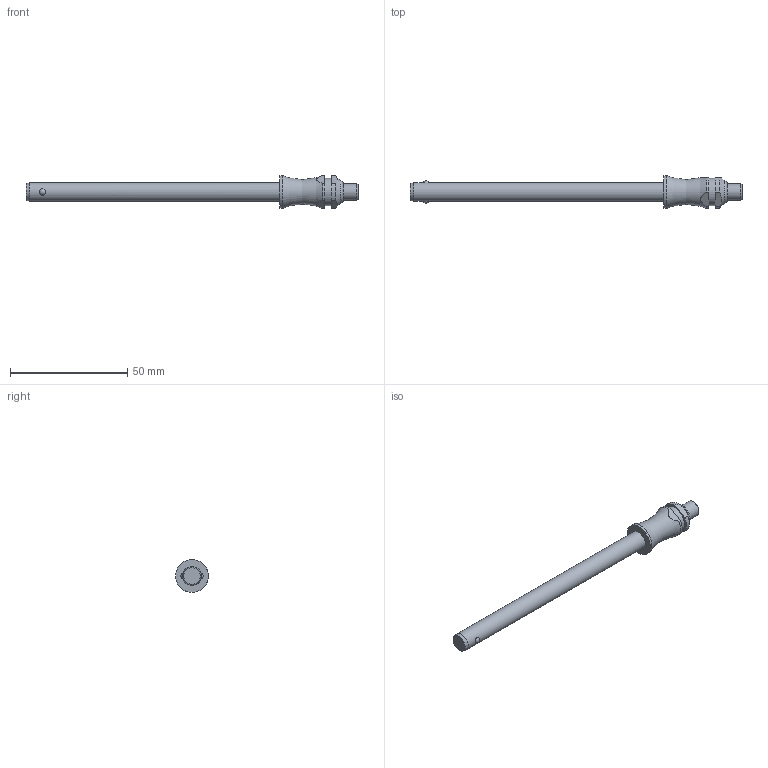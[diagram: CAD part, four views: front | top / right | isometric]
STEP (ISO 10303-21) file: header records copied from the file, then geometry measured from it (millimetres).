
FILE_DESCRIPTION( ( 'STEP AP203' ), '1' );
FILE_NAME( 'C:/Temp/Ganter_Step_05_03_2020/data/3_1/gn113_3/Stainless Steel-Ball lock pin GN 113.3-8-100 (deactivated).stp', '2020-03-12T08:18:29', ( 'License CC BY-ND 4.0' ), ( 'CADENAS' ), ' ', 'PARTsolutions', ' ' );
FILE_SCHEMA( ( 'CONFIG_CONTROL_DESIGN' ) );
Length unit declared in the file: millimetre
Products named in the file (1): _Stainless Steel-Ball lock pin GN 113.3-8-100 (deactivated)
Bounding box: 141.5 x 14 x 14 mm (x, y, z)
Volume: 8658.5 mm3; surface area: 4176.7 mm2
Topology: 1 solids, 1 shells, 28 faces, 60 edges, 39 vertices
Faces by surface type: plane 11, cylinder 10, cone 3, torus 2, sphere 2
Full cylindrical faces by diameter (mm): 7 x1, 8 x1, 11.6 x1, 14 x1
Entity records: 916 total; most frequent: CARTESIAN_POINT 303, DIRECTION 122, ORIENTED_EDGE 98, AXIS2_PLACEMENT_3D 52, EDGE_CURVE 49, EDGE_LOOP 42, VERTEX_POINT 37, FACE_OUTER_BOUND 34
